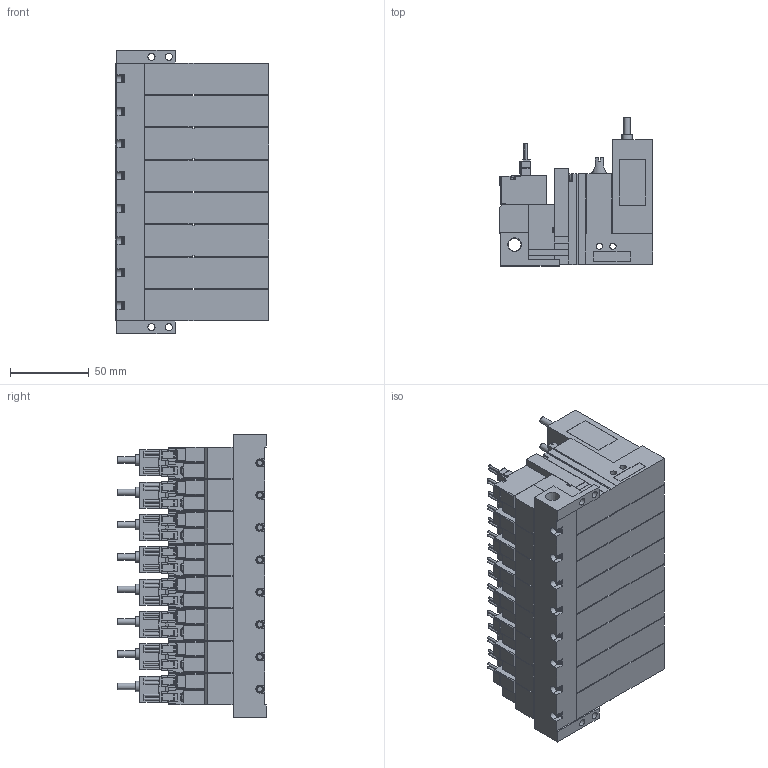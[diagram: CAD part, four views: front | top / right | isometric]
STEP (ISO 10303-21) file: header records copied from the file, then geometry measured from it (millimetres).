
FILE_DESCRIPTION(('STEP AP203'),'1');
FILE_NAME('VG_VGPLC5ALR808.stp','2025-02-25T05:21:11',(' '),(' '),'Spatial InterOp 3D',' ',' ');
FILE_SCHEMA(('CONFIG_CONTROL_DESIGN'));
Length unit declared in the file: millimetre
Products named in the file (5): BMC22M※※※※VG_VGPLC5ALR808; Solenoid valve A; Pressure sensor VGLC; Unit LC; Base MR80R
Assembly tree (25 placements, depth 2):
  BMC22M※※※※VG_VGPLC5ALR808
    Solenoid valve A  x8
    Pressure sensor VGLC  x8
    Unit LC  x8
    Base MR80R
Bounding box: 97.6 x 94 x 179.5 mm (x, y, z)
Volume: 899380.7 mm3; surface area: 229512.9 mm2
Topology: 25 solids, 25 shells, 3341 faces, 8939 edges, 5880 vertices
Faces by surface type: plane 2830, cylinder 413, cone 58, torus 40
Full cylindrical faces by diameter (mm): 1.4 x32, 2.5 x24, 3 x32, 3.5 x32, 3.6 x8, 4 x48, 4.134 x8, 4.5 x4, 5.2 x8, 6 x8, 6.5 x8, 6.6 x8, 8.279 x1
Entity records: 16881 total; most frequent: CARTESIAN_POINT 3289, DIRECTION 2699, ORIENTED_EDGE 2590, EDGE_CURVE 1295, LINE 1025, VECTOR 1025, VERTEX_POINT 911, AXIS2_PLACEMENT_3D 837
